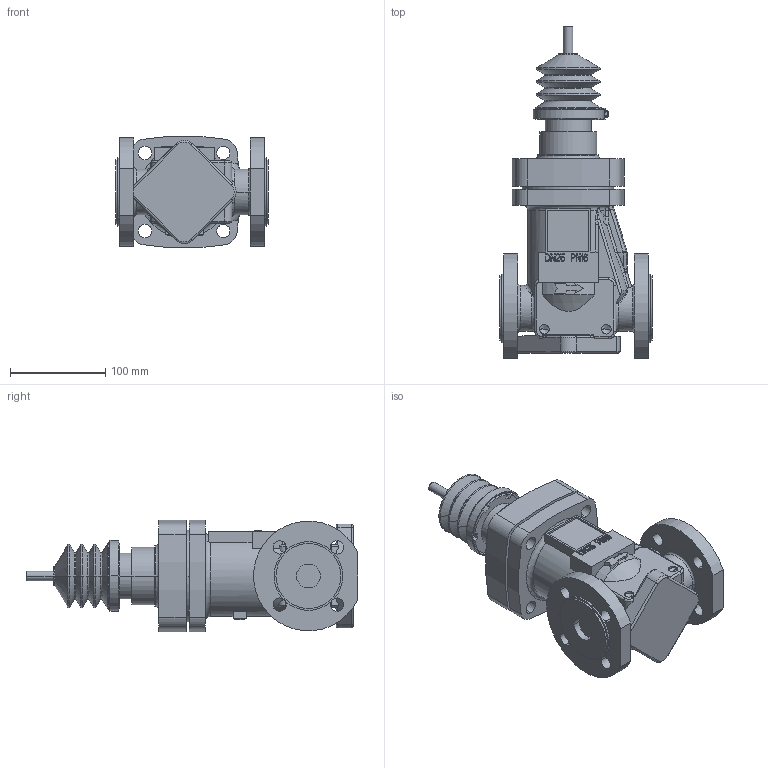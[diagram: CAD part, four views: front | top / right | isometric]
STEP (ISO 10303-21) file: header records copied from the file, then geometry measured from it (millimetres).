
FILE_DESCRIPTION((''),'2;1');
FILE_NAME('9560-00-5003_A_SW0001','2014-07-01T',('mclefen'),(''),'PRO/ENGINEER BY PARAMETRIC TECHNOLOGY CORPORATION, 2011040','PRO/ENGINEER BY PARAMETRIC TECHNOLOGY CORPORATION, 2011040','');
FILE_SCHEMA(('CONFIG_CONTROL_DESIGN'));
Length unit declared in the file: millimetre
Products named in the file (1): 9560-00-5003_A_SW0001
Bounding box: 160 x 348 x 117.17 mm (x, y, z)
Volume: 2078181.5 mm3; surface area: 258897.9 mm2
Topology: 2 solids, 2 shells, 868 faces, 2340 edges, 1491 vertices
Faces by surface type: plane 504, cylinder 198, bspline 65, cone 52, torus 49
Entity records: 29306 total; most frequent: CARTESIAN_POINT 7659, ORIENTED_EDGE 4658, DIRECTION 4288, EDGE_CURVE 2329, VECTOR 1572, LINE 1572, VERTEX_POINT 1490, AXIS2_PLACEMENT_3D 1358
